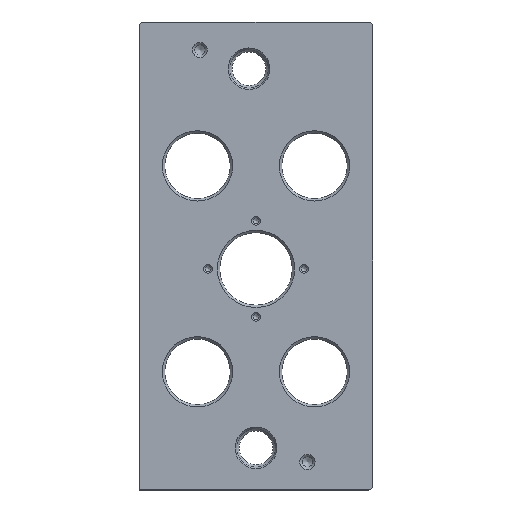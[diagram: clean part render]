
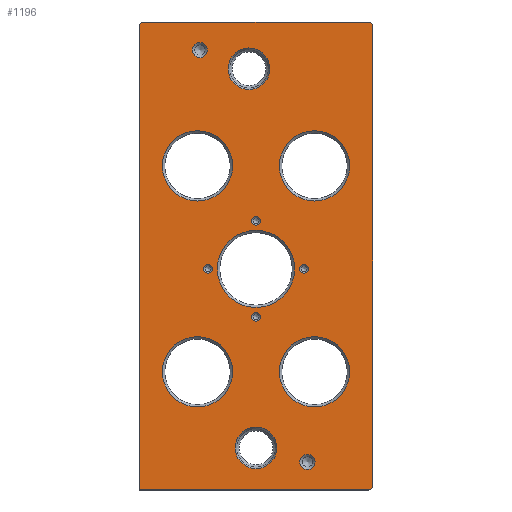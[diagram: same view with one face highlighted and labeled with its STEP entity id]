
A CAD part, top view. The second image highlights one B-rep face of the part: STEP entity #1196.
In plain terms, the highlighted planar face has unit normal (0, 0, 1).
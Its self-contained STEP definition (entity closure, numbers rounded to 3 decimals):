
#499=PLANE('',#5780);
#619=LINE('',#8813,#930);
#620=LINE('',#8818,#931);
#621=LINE('',#8822,#932);
#622=LINE('',#8826,#933);
#930=VECTOR('',#6788,1.);
#931=VECTOR('',#6791,1.);
#932=VECTOR('',#6794,1.);
#933=VECTOR('',#6797,1.);
#1196=ADVANCED_FACE('',(#1735,#1736,#1737,#1738,#1739,#1740,#1741,#1742,
#1743,#1744,#1745,#1746,#1747,#1748),#499,.T.);
#1735=FACE_BOUND('',#1854,.T.);
#1736=FACE_BOUND('',#1855,.T.);
#1737=FACE_BOUND('',#1856,.T.);
#1738=FACE_BOUND('',#1857,.T.);
#1739=FACE_BOUND('',#1858,.T.);
#1740=FACE_BOUND('',#1859,.T.);
#1741=FACE_BOUND('',#1860,.T.);
#1742=FACE_BOUND('',#1861,.T.);
#1743=FACE_BOUND('',#1862,.T.);
#1744=FACE_BOUND('',#1863,.T.);
#1745=FACE_BOUND('',#1864,.T.);
#1746=FACE_BOUND('',#1865,.T.);
#1747=FACE_BOUND('',#1866,.T.);
#1748=FACE_BOUND('',#1867,.T.);
#1854=EDGE_LOOP('',(#2417));
#1855=EDGE_LOOP('',(#2418));
#1856=EDGE_LOOP('',(#2419));
#1857=EDGE_LOOP('',(#2420));
#1858=EDGE_LOOP('',(#2421));
#1859=EDGE_LOOP('',(#2422));
#1860=EDGE_LOOP('',(#2423));
#1861=EDGE_LOOP('',(#2424));
#1862=EDGE_LOOP('',(#2425));
#1863=EDGE_LOOP('',(#2426));
#1864=EDGE_LOOP('',(#2427));
#1865=EDGE_LOOP('',(#2428));
#1866=EDGE_LOOP('',(#2429));
#1867=EDGE_LOOP('',(#2430,#2431,#2432,#2433,#2434,#2435,#2436));
#2417=ORIENTED_EDGE('',*,*,#4529,.T.);
#2418=ORIENTED_EDGE('',*,*,#4530,.T.);
#2419=ORIENTED_EDGE('',*,*,#4531,.T.);
#2420=ORIENTED_EDGE('',*,*,#4532,.T.);
#2421=ORIENTED_EDGE('',*,*,#4533,.T.);
#2422=ORIENTED_EDGE('',*,*,#4534,.T.);
#2423=ORIENTED_EDGE('',*,*,#4535,.T.);
#2424=ORIENTED_EDGE('',*,*,#4536,.T.);
#2425=ORIENTED_EDGE('',*,*,#4537,.T.);
#2426=ORIENTED_EDGE('',*,*,#4538,.T.);
#2427=ORIENTED_EDGE('',*,*,#4539,.T.);
#2428=ORIENTED_EDGE('',*,*,#4540,.T.);
#2429=ORIENTED_EDGE('',*,*,#4541,.T.);
#2430=ORIENTED_EDGE('',*,*,#4542,.F.);
#2431=ORIENTED_EDGE('',*,*,#4543,.T.);
#2432=ORIENTED_EDGE('',*,*,#4544,.F.);
#2433=ORIENTED_EDGE('',*,*,#4545,.T.);
#2434=ORIENTED_EDGE('',*,*,#4546,.F.);
#2435=ORIENTED_EDGE('',*,*,#4547,.T.);
#2436=ORIENTED_EDGE('',*,*,#4548,.F.);
#4023=VERTEX_POINT('',#8788);
#4024=VERTEX_POINT('',#8790);
#4025=VERTEX_POINT('',#8792);
#4026=VERTEX_POINT('',#8794);
#4027=VERTEX_POINT('',#8796);
#4028=VERTEX_POINT('',#8798);
#4029=VERTEX_POINT('',#8800);
#4030=VERTEX_POINT('',#8802);
#4031=VERTEX_POINT('',#8804);
#4032=VERTEX_POINT('',#8806);
#4033=VERTEX_POINT('',#8808);
#4034=VERTEX_POINT('',#8810);
#4035=VERTEX_POINT('',#8812);
#4036=VERTEX_POINT('',#8814);
#4037=VERTEX_POINT('',#8815);
#4038=VERTEX_POINT('',#8817);
#4039=VERTEX_POINT('',#8819);
#4040=VERTEX_POINT('',#8821);
#4041=VERTEX_POINT('',#8823);
#4042=VERTEX_POINT('',#8825);
#4529=EDGE_CURVE('',#4023,#4023,#5284,.T.);
#4530=EDGE_CURVE('',#4024,#4024,#5285,.T.);
#4531=EDGE_CURVE('',#4025,#4025,#5286,.T.);
#4532=EDGE_CURVE('',#4026,#4026,#5287,.T.);
#4533=EDGE_CURVE('',#4027,#4027,#5288,.T.);
#4534=EDGE_CURVE('',#4028,#4028,#5289,.T.);
#4535=EDGE_CURVE('',#4029,#4029,#5290,.T.);
#4536=EDGE_CURVE('',#4030,#4030,#5291,.T.);
#4537=EDGE_CURVE('',#4031,#4031,#5292,.T.);
#4538=EDGE_CURVE('',#4032,#4032,#5293,.T.);
#4539=EDGE_CURVE('',#4033,#4033,#5294,.T.);
#4540=EDGE_CURVE('',#4034,#4034,#5295,.T.);
#4541=EDGE_CURVE('',#4035,#4035,#5296,.T.);
#4542=EDGE_CURVE('',#4036,#4037,#619,.T.);
#4543=EDGE_CURVE('',#4036,#4038,#5297,.T.);
#4544=EDGE_CURVE('',#4039,#4038,#620,.T.);
#4545=EDGE_CURVE('',#4039,#4040,#5298,.T.);
#4546=EDGE_CURVE('',#4041,#4040,#621,.T.);
#4547=EDGE_CURVE('',#4041,#4042,#5299,.T.);
#4548=EDGE_CURVE('',#4037,#4042,#622,.T.);
#5284=CIRCLE('',#5764,15.);
#5285=CIRCLE('',#5765,15.);
#5286=CIRCLE('',#5766,16.5);
#5287=CIRCLE('',#5767,15.);
#5288=CIRCLE('',#5768,15.);
#5289=CIRCLE('',#5769,1.85);
#5290=CIRCLE('',#5770,1.85);
#5291=CIRCLE('',#5771,1.85);
#5292=CIRCLE('',#5772,1.85);
#5293=CIRCLE('',#5773,3.25);
#5294=CIRCLE('',#5774,3.25);
#5295=CIRCLE('',#5775,8.9);
#5296=CIRCLE('',#5776,8.9);
#5297=CIRCLE('',#5777,2.);
#5298=CIRCLE('',#5778,2.);
#5299=CIRCLE('',#5779,2.);
#5764=AXIS2_PLACEMENT_3D('',#8787,#6762,#6763);
#5765=AXIS2_PLACEMENT_3D('',#8789,#6764,#6765);
#5766=AXIS2_PLACEMENT_3D('',#8791,#6766,#6767);
#5767=AXIS2_PLACEMENT_3D('',#8793,#6768,#6769);
#5768=AXIS2_PLACEMENT_3D('',#8795,#6770,#6771);
#5769=AXIS2_PLACEMENT_3D('',#8797,#6772,#6773);
#5770=AXIS2_PLACEMENT_3D('',#8799,#6774,#6775);
#5771=AXIS2_PLACEMENT_3D('',#8801,#6776,#6777);
#5772=AXIS2_PLACEMENT_3D('',#8803,#6778,#6779);
#5773=AXIS2_PLACEMENT_3D('',#8805,#6780,#6781);
#5774=AXIS2_PLACEMENT_3D('',#8807,#6782,#6783);
#5775=AXIS2_PLACEMENT_3D('',#8809,#6784,#6785);
#5776=AXIS2_PLACEMENT_3D('',#8811,#6786,#6787);
#5777=AXIS2_PLACEMENT_3D('',#8816,#6789,#6790);
#5778=AXIS2_PLACEMENT_3D('',#8820,#6792,#6793);
#5779=AXIS2_PLACEMENT_3D('',#8824,#6795,#6796);
#5780=AXIS2_PLACEMENT_3D('',#8827,#6798,#6799);
#6762=DIRECTION('',(0.,0.,-1.));
#6763=DIRECTION('',(1.,0.,0.));
#6764=DIRECTION('',(0.,0.,-1.));
#6765=DIRECTION('',(1.,0.,0.));
#6766=DIRECTION('',(0.,0.,-1.));
#6767=DIRECTION('',(1.,0.,0.));
#6768=DIRECTION('',(0.,0.,-1.));
#6769=DIRECTION('',(1.,0.,0.));
#6770=DIRECTION('',(0.,0.,-1.));
#6771=DIRECTION('',(1.,0.,0.));
#6772=DIRECTION('',(0.,0.,-1.));
#6773=DIRECTION('',(1.,0.,0.));
#6774=DIRECTION('',(0.,0.,-1.));
#6775=DIRECTION('',(1.,0.,0.));
#6776=DIRECTION('',(0.,0.,-1.));
#6777=DIRECTION('',(1.,0.,0.));
#6778=DIRECTION('',(0.,0.,-1.));
#6779=DIRECTION('',(1.,0.,0.));
#6780=DIRECTION('',(0.,0.,-1.));
#6781=DIRECTION('',(1.,0.,0.));
#6782=DIRECTION('',(0.,0.,-1.));
#6783=DIRECTION('',(1.,0.,0.));
#6784=DIRECTION('',(0.,0.,-1.));
#6785=DIRECTION('',(-1.,0.,0.));
#6786=DIRECTION('',(0.,0.,-1.));
#6787=DIRECTION('',(-1.,0.,0.));
#6788=DIRECTION('',(-1.,0.,0.));
#6789=DIRECTION('',(0.,0.,1.));
#6790=DIRECTION('',(1.,0.,0.));
#6791=DIRECTION('',(0.,-1.,0.));
#6792=DIRECTION('',(0.,0.,1.));
#6793=DIRECTION('',(1.,0.,0.));
#6794=DIRECTION('',(1.,0.,0.));
#6795=DIRECTION('',(0.,0.,1.));
#6796=DIRECTION('',(1.,0.,0.));
#6797=DIRECTION('',(0.,1.,0.));
#6798=DIRECTION('',(0.,0.,1.));
#6799=DIRECTION('',(1.,0.,0.));
#8787=CARTESIAN_POINT('',(75.,138.5,16.));
#8788=CARTESIAN_POINT('',(90.,138.5,16.));
#8789=CARTESIAN_POINT('',(25.,138.5,16.));
#8790=CARTESIAN_POINT('',(40.,138.5,16.));
#8791=CARTESIAN_POINT('',(50.,94.5,16.));
#8792=CARTESIAN_POINT('',(66.5,94.5,16.));
#8793=CARTESIAN_POINT('',(75.,50.5,16.));
#8794=CARTESIAN_POINT('',(90.,50.5,16.));
#8795=CARTESIAN_POINT('',(25.,50.5,16.));
#8796=CARTESIAN_POINT('',(40.,50.5,16.));
#8797=CARTESIAN_POINT('',(70.506,94.5,16.));
#8798=CARTESIAN_POINT('',(72.356,94.5,16.));
#8799=CARTESIAN_POINT('',(50.,115.006,16.));
#8800=CARTESIAN_POINT('',(51.85,115.006,16.));
#8801=CARTESIAN_POINT('',(29.494,94.5,16.));
#8802=CARTESIAN_POINT('',(31.344,94.5,16.));
#8803=CARTESIAN_POINT('',(50.,73.994,16.));
#8804=CARTESIAN_POINT('',(51.85,73.994,16.));
#8805=CARTESIAN_POINT('',(72.,12.,16.));
#8806=CARTESIAN_POINT('',(75.25,12.,16.));
#8807=CARTESIAN_POINT('',(26.,188.,16.));
#8808=CARTESIAN_POINT('',(29.25,188.,16.));
#8809=CARTESIAN_POINT('',(47.,180.,16.));
#8810=CARTESIAN_POINT('',(38.1,180.,16.));
#8811=CARTESIAN_POINT('',(50.,18.,16.));
#8812=CARTESIAN_POINT('',(41.1,18.,16.));
#8813=CARTESIAN_POINT('',(100.,0.,16.));
#8814=CARTESIAN_POINT('',(98.,0.,16.));
#8815=CARTESIAN_POINT('',(0.,0.,16.));
#8816=CARTESIAN_POINT('',(98.,2.,16.));
#8817=CARTESIAN_POINT('',(100.,2.,16.));
#8818=CARTESIAN_POINT('',(100.,200.,16.));
#8819=CARTESIAN_POINT('',(100.,198.,16.));
#8820=CARTESIAN_POINT('',(98.,198.,16.));
#8821=CARTESIAN_POINT('',(98.,200.,16.));
#8822=CARTESIAN_POINT('',(0.,200.,16.));
#8823=CARTESIAN_POINT('',(2.,200.,16.));
#8824=CARTESIAN_POINT('',(2.,198.,16.));
#8825=CARTESIAN_POINT('',(0.,198.,16.));
#8826=CARTESIAN_POINT('',(0.,0.,16.));
#8827=CARTESIAN_POINT('',(47.,180.,16.));
